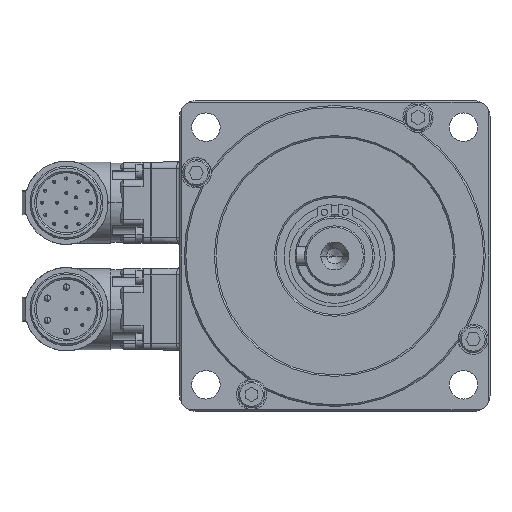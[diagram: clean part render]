
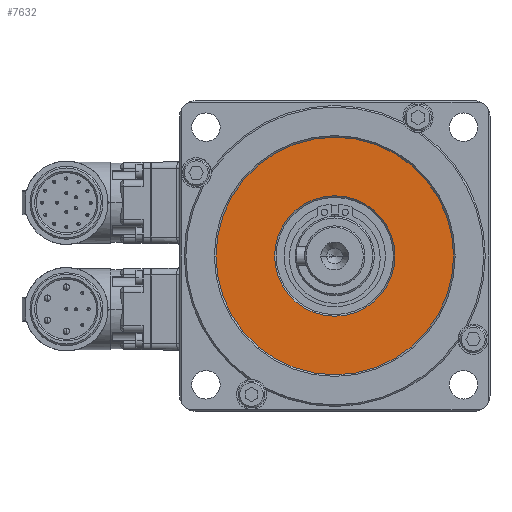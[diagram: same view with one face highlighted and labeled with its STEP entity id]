
A CAD part, left-side view. The second image highlights one B-rep face of the part: STEP entity #7632.
In plain terms, the highlighted planar face has unit normal (-1, 0, 0) as drawn and (0, 0, 1) by its records, which use the part's own axes.
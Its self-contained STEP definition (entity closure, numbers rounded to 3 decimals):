
#5618=CARTESIAN_POINT('',(0.,0.,14.));
#5619=DIRECTION('',(0.,0.,1.));
#5620=DIRECTION('',(1.,0.,0.));
#5621=AXIS2_PLACEMENT_3D('',#5618,#5619,#5620);
#5626=CARTESIAN_POINT('',(0.,0.,14.));
#5627=DIRECTION('',(0.,0.,1.));
#5628=DIRECTION('',(-1.,0.,0.));
#5629=AXIS2_PLACEMENT_3D('',#5626,#5627,#5628);
#5634=CARTESIAN_POINT('',(0.,0.,14.));
#5635=DIRECTION('',(0.,0.,-1.));
#5636=DIRECTION('',(-1.,0.,0.));
#5637=AXIS2_PLACEMENT_3D('',#5634,#5635,#5636);
#5642=CARTESIAN_POINT('',(0.,0.,14.));
#5643=DIRECTION('',(0.,0.,-1.));
#5644=DIRECTION('',(1.,0.,0.));
#5645=AXIS2_PLACEMENT_3D('',#5642,#5643,#5644);
#6772=CARTESIAN_POINT('',(37.5,0.,14.));
#6773=CARTESIAN_POINT('',(-37.5,0.,14.));
#6774=VERTEX_POINT('',#6772);
#6775=VERTEX_POINT('',#6773);
#6920=CARTESIAN_POINT('',(-19.,0.,14.));
#6921=CARTESIAN_POINT('',(19.,0.,14.));
#6922=VERTEX_POINT('',#6920);
#6923=VERTEX_POINT('',#6921);
#7616=CARTESIAN_POINT('',(0.,0.,14.));
#7617=DIRECTION('',(0.,0.,1.));
#7618=DIRECTION('',(1.,0.,0.));
#7619=AXIS2_PLACEMENT_3D('',#7616,#7617,#7618);
#7620=PLANE('',#7619);
#7622=ORIENTED_EDGE('',*,*,#7621,.F.);
#7624=ORIENTED_EDGE('',*,*,#7623,.F.);
#7625=EDGE_LOOP('',(#7622,#7624));
#7626=FACE_OUTER_BOUND('',#7625,.F.);
#7628=ORIENTED_EDGE('',*,*,#7627,.F.);
#7629=ORIENTED_EDGE('',*,*,#7606,.F.);
#7630=EDGE_LOOP('',(#7628,#7629));
#7631=FACE_BOUND('',#7630,.F.);
#5622=CIRCLE('',#5621,37.5);
#5630=CIRCLE('',#5629,37.5);
#5638=CIRCLE('',#5637,19.);
#5646=CIRCLE('',#5645,19.);
#7606=EDGE_CURVE('',#6923,#6922,#5646,.T.);
#7621=EDGE_CURVE('',#6774,#6775,#5622,.T.);
#7623=EDGE_CURVE('',#6775,#6774,#5630,.T.);
#7627=EDGE_CURVE('',#6922,#6923,#5638,.T.);
#7632=ADVANCED_FACE('',(#7626,#7631),#7620,.T.);
